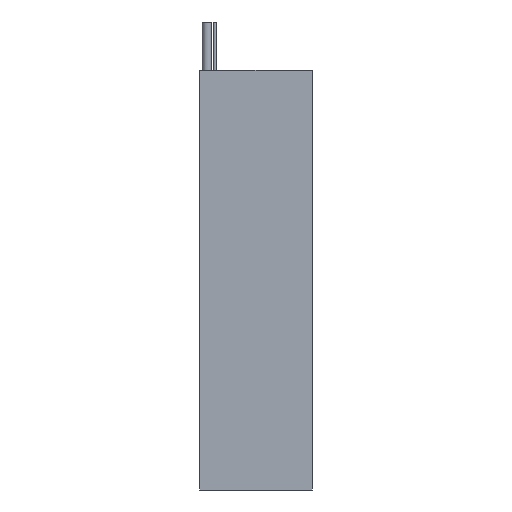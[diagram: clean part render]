
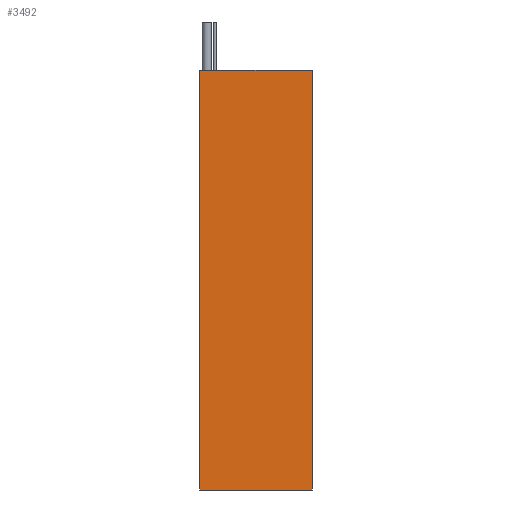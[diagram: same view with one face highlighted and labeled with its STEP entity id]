
A CAD part, front view. The second image highlights one B-rep face of the part: STEP entity #3492.
In plain terms, the highlighted planar face has unit normal (0, -1, 0).
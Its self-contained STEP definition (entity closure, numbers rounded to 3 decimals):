
#151 = DIRECTION ( 'NONE',  ( 0., 0., 1. ) ) ;
#469 = LINE ( 'NONE', #568, #3121 ) ;
#552 = VECTOR ( 'NONE', #151, 1000. ) ;
#558 = ORIENTED_EDGE ( 'NONE', *, *, #1136, .F. ) ;
#568 = CARTESIAN_POINT ( 'NONE',  ( -453.861, 525.584, -433. ) ) ;
#600 = CARTESIAN_POINT ( 'NONE',  ( -453.861, 525.584, -433. ) ) ;
#645 = EDGE_LOOP ( 'NONE', ( #2880, #558, #4217, #3699 ) ) ;
#826 = EDGE_CURVE ( 'NONE', #1695, #1023, #469, .T. ) ;
#829 = CARTESIAN_POINT ( 'NONE',  ( -337.861, 525.584, -433. ) ) ;
#953 = DIRECTION ( 'NONE',  ( 0., 0., 1. ) ) ;
#1023 = VERTEX_POINT ( 'NONE', #4321 ) ;
#1136 = EDGE_CURVE ( 'NONE', #1695, #3921, #3816, .T. ) ;
#1252 = DIRECTION ( 'NONE',  ( 1., 0., 0. ) ) ;
#1304 = CARTESIAN_POINT ( 'NONE',  ( -337.861, 525.584, 0. ) ) ;
#1497 = EDGE_CURVE ( 'NONE', #1023, #3134, #4115, .T. ) ;
#1530 = DIRECTION ( 'NONE',  ( 0., -1., 0. ) ) ;
#1671 = EDGE_CURVE ( 'NONE', #3921, #3134, #3692, .T. ) ;
#1695 = VERTEX_POINT ( 'NONE', #2824 ) ;
#1858 = CARTESIAN_POINT ( 'NONE',  ( -453.861, 525.584, -433. ) ) ;
#2007 = AXIS2_PLACEMENT_3D ( 'NONE', #1858, #1530, #3968 ) ;
#2099 = CARTESIAN_POINT ( 'NONE',  ( -453.861, 525.584, 0. ) ) ;
#2450 = DIRECTION ( 'NONE',  ( 1., 0., 0. ) ) ;
#2657 = VECTOR ( 'NONE', #2450, 1000. ) ;
#2824 = CARTESIAN_POINT ( 'NONE',  ( -453.861, 525.584, -433. ) ) ;
#2880 = ORIENTED_EDGE ( 'NONE', *, *, #1671, .F. ) ;
#2903 = VECTOR ( 'NONE', #953, 1000. ) ;
#3121 = VECTOR ( 'NONE', #1252, 1000. ) ;
#3134 = VERTEX_POINT ( 'NONE', #1304 ) ;
#3282 = PLANE ( 'NONE',  #2007 ) ;
#3457 = CARTESIAN_POINT ( 'NONE',  ( -453.861, 525.584, 0. ) ) ;
#3492 = ADVANCED_FACE ( 'NONE', ( #4147 ), #3282, .T. ) ;
#3692 = LINE ( 'NONE', #2099, #2657 ) ;
#3699 = ORIENTED_EDGE ( 'NONE', *, *, #1497, .T. ) ;
#3816 = LINE ( 'NONE', #600, #2903 ) ;
#3921 = VERTEX_POINT ( 'NONE', #3457 ) ;
#3968 = DIRECTION ( 'NONE',  ( 0., 0., -1. ) ) ;
#4115 = LINE ( 'NONE', #829, #552 ) ;
#4147 = FACE_OUTER_BOUND ( 'NONE', #645, .T. ) ;
#4217 = ORIENTED_EDGE ( 'NONE', *, *, #826, .T. ) ;
#4321 = CARTESIAN_POINT ( 'NONE',  ( -337.861, 525.584, -433. ) ) ;
